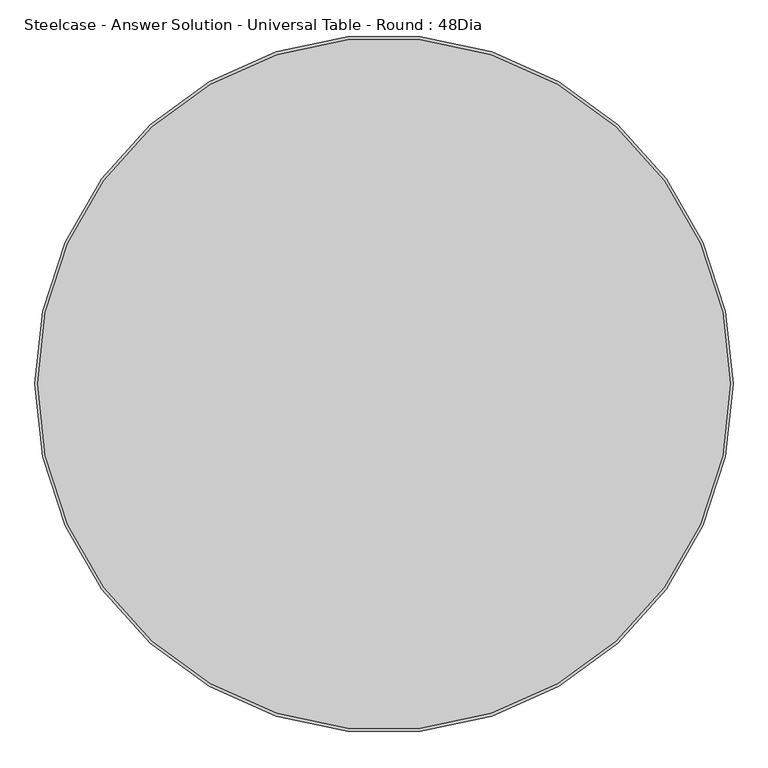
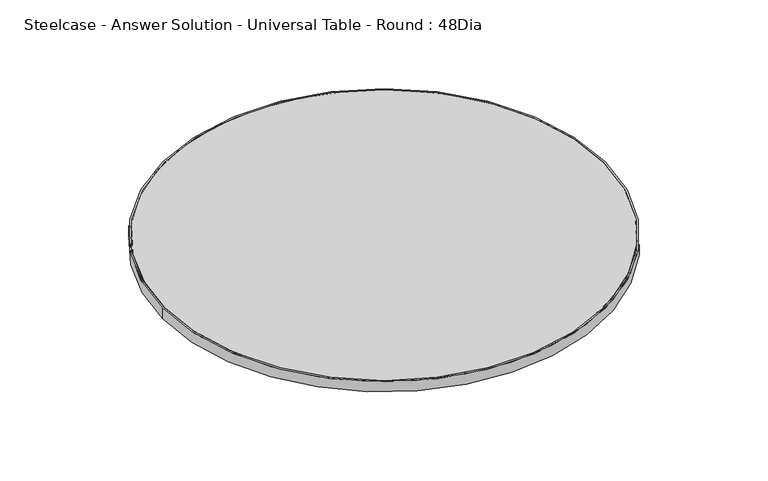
"""IFC4 building model written with IfcOpenShell, lengths in millimetres: furniture geometry, Steelcase - Answer Solution - Universal Table - Round : 48Dia."""

from ifc_helpers import new_model, si_unit, point, frame, origin, origin_2d, place, context, project, spatial, circle_curve, trimmed, segment, composite_curve, outline, extrude, source, transform, mapped, element, save


def steelcase_answer_solution_universal_table_round_48dia_d038612e(model_context):
    return source(origin(), model_context, "Body", "SweptSolid", [
        extrude(outline(composite_curve([segment(trimmed(circle_curve(origin_2d(), 614.68), [point((-614.68, 0.0))], [point((614.68, 0.0))], False, "CARTESIAN"), True, "CONTINUOUS"), segment(trimmed(circle_curve(origin_2d(), 614.68), [point((614.68, 0.0))], [point((-614.68, 0.0))], False, "CARTESIAN"), True, "CONTINUOUS")], self_intersect=False), holes=[composite_curve([segment(trimmed(circle_curve(origin_2d(), 609.6), [point((609.6, 0.0))], [point((-609.6, 0.0))], True, "CARTESIAN"), True, "CONTINUOUS"), segment(trimmed(circle_curve(origin_2d(), 609.6), [point((-609.6, 0.0))], [point((609.6, 0.0))], True, "CARTESIAN"), True, "CONTINUOUS")], self_intersect=False)]), frame((0.0, 0.0, 668.274), z_axis=(0.0, 0.0, 1.0), x_axis=(1.0, 0.0, 0.0)), (0.0, 0.0, 1.0), 30.0990349),
        extrude(outline(composite_curve([segment(trimmed(circle_curve(origin_2d(), 609.6), [point((-609.6, 0.0))], [point((609.6, 0.0))], False, "CARTESIAN"), True, "CONTINUOUS"), segment(trimmed(circle_curve(origin_2d(), 609.6), [point((609.6, 0.0))], [point((-609.6, 0.0))], False, "CARTESIAN"), True, "CONTINUOUS")], self_intersect=False)), frame((0.0, 0.0, 668.274), z_axis=(0.0, 0.0, 1.0), x_axis=(1.0, 0.0, 0.0)), (0.0, 0.0, 1.0), 30.0990349),
    ])


if __name__ == "__main__":
    model = new_model("IFC4")
    model_context = context("Model", 3, world=origin())
    ifc_project = project(units=[si_unit("LENGTHUNIT", "METRE", prefix="MILLI")], contexts=[model_context])
    site = spatial("IfcSite", under=ifc_project)
    building = spatial("IfcBuilding", under=site)
    placement = place(None, origin())
    steelcase_answer_solution_universal_table_round_48dia_shape = steelcase_answer_solution_universal_table_round_48dia_d038612e(model_context)
    element("IfcFurniture", 1, ObjectType="Steelcase - Answer Solution - Universal Table - Round : 48Dia", at=placement, inside=building, context=model_context, shape_type="MappedRepresentation", body=[
        mapped(steelcase_answer_solution_universal_table_round_48dia_shape, transform((0.0, 0.0, 0.0), x_axis=(1.0, 0.0, 0.0), y_axis=(0.0, 1.0, 0.0), z_axis=(0.0, 0.0, 1.0))),
    ])
    save(model, "model.ifc")
